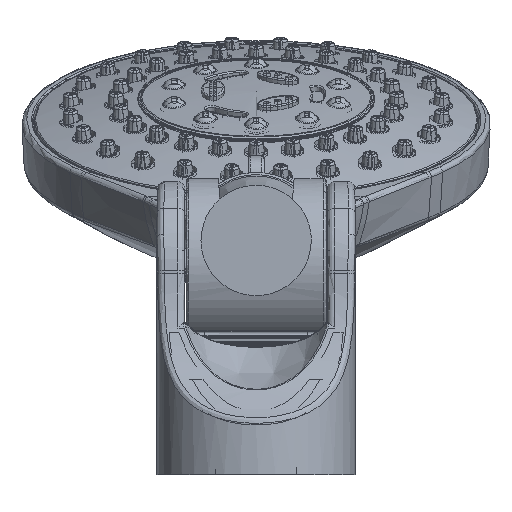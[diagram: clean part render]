
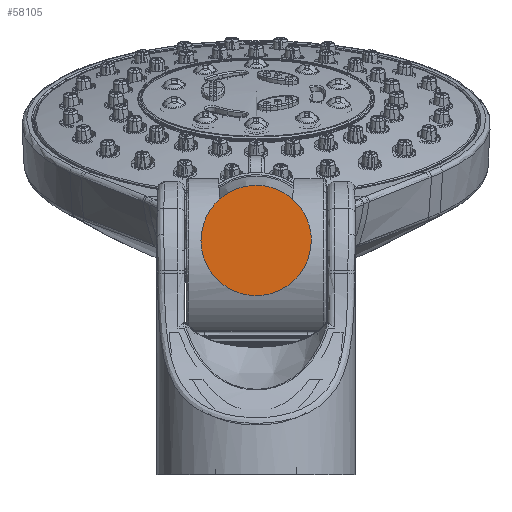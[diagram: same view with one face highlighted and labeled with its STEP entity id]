
A CAD part, front view. The second image highlights one B-rep face of the part: STEP entity #58105.
In plain terms, the highlighted planar face has unit normal (0, -1, 0).
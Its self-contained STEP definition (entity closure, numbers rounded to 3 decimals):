
#757 = CARTESIAN_POINT ( 'NONE',  ( 7.375, -349., -49.296 ) ) ;
#2614 = CARTESIAN_POINT ( 'NONE',  ( 7.375, -349., -30.104 ) ) ;
#6773 = CARTESIAN_POINT ( 'NONE',  ( 0., -349., -39.7 ) ) ;
#12254 = CARTESIAN_POINT ( 'NONE',  ( -3.141, -349., -51.388 ) ) ;
#14790 = EDGE_CURVE ( 'NONE', #79010, #161011, #128964, .T. ) ;
#19203 = DIRECTION ( 'NONE',  ( 0., 1., 0. ) ) ;
#26536 = CARTESIAN_POINT ( 'NONE',  ( -12., -349., -39.7 ) ) ;
#39971 = B_SPLINE_CURVE_WITH_KNOTS ( 'NONE', 3,
 ( #73171, #57934, #148574, #43635, #102786, #133308, #60735, #117105, #75064, #149497, #119923, #131431, #2614, #178112, #76003, #101863, #160074, #177148 ),
 .UNSPECIFIED., .F., .F.,
 ( 4, 2, 2, 2, 2, 2, 2, 2, 4 ),
 ( 0.5, 0.563, 0.625, 0.688, 0.75, 0.813, 0.875, 0.938, 1. ),
 .UNSPECIFIED. ) ;
#42735 = CARTESIAN_POINT ( 'NONE',  ( -1.571, -349., -51.7 ) ) ;
#43635 = CARTESIAN_POINT ( 'NONE',  ( -10.485, -349., -33.657 ) ) ;
#44610 = CARTESIAN_POINT ( 'NONE',  ( -11.688, -349., -42.841 ) ) ;
#57934 = CARTESIAN_POINT ( 'NONE',  ( -12., -349., -38.129 ) ) ;
#57969 = CARTESIAN_POINT ( 'NONE',  ( 12., -349., -39.7 ) ) ;
#58105 = ADVANCED_FACE ( 'NONE', ( #78314 ), #81143, .F. ) ;
#60735 = CARTESIAN_POINT ( 'NONE',  ( -6.043, -349., -29.215 ) ) ;
#64592 = ORIENTED_EDGE ( 'NONE', *, *, #14790, .F. ) ;
#71334 = CARTESIAN_POINT ( 'NONE',  ( -12., -349., -41.271 ) ) ;
#73171 = CARTESIAN_POINT ( 'NONE',  ( -12., -349., -39.7 ) ) ;
#75064 = CARTESIAN_POINT ( 'NONE',  ( -1.571, -349., -27.7 ) ) ;
#76003 = CARTESIAN_POINT ( 'NONE',  ( 10.485, -349., -33.657 ) ) ;
#77372 = DIRECTION ( 'NONE',  ( 0., 0., -1. ) ) ;
#78314 = FACE_OUTER_BOUND ( 'NONE', #79014, .T. ) ;
#79010 = VERTEX_POINT ( 'NONE', #165571 ) ;
#79014 = EDGE_LOOP ( 'NONE', ( #185626, #64592 ) ) ;
#81143 = PLANE ( 'NONE',  #120304 ) ;
#84754 = CARTESIAN_POINT ( 'NONE',  ( 6.043, -349., -50.185 ) ) ;
#99074 = CARTESIAN_POINT ( 'NONE',  ( 3.141, -349., -51.388 ) ) ;
#100020 = CARTESIAN_POINT ( 'NONE',  ( -10.485, -349., -45.743 ) ) ;
#101863 = CARTESIAN_POINT ( 'NONE',  ( 11.688, -349., -36.559 ) ) ;
#101906 = CARTESIAN_POINT ( 'NONE',  ( -9.596, -349., -47.075 ) ) ;
#102786 = CARTESIAN_POINT ( 'NONE',  ( -9.596, -349., -32.325 ) ) ;
#114340 = CARTESIAN_POINT ( 'NONE',  ( -7.375, -349., -49.296 ) ) ;
#117105 = CARTESIAN_POINT ( 'NONE',  ( -3.141, -349., -28.012 ) ) ;
#119923 = CARTESIAN_POINT ( 'NONE',  ( 3.141, -349., -28.012 ) ) ;
#120304 = AXIS2_PLACEMENT_3D ( 'NONE', #6773, #19203, #77372 ) ;
#128964 = B_SPLINE_CURVE_WITH_KNOTS ( 'NONE', 3,
 ( #57969, #173439, #172517, #132417, #129612, #757, #84754, #99074, #144876, #42735, #12254, #171549, #114340, #101906, #100020, #44610, #71334, #143930 ),
 .UNSPECIFIED., .F., .F.,
 ( 4, 2, 2, 2, 2, 2, 2, 2, 4 ),
 ( 0., 0.063, 0.125, 0.188, 0.25, 0.313, 0.375, 0.438, 0.5 ),
 .UNSPECIFIED. ) ;
#129612 = CARTESIAN_POINT ( 'NONE',  ( 9.596, -349., -47.075 ) ) ;
#131431 = CARTESIAN_POINT ( 'NONE',  ( 6.043, -349., -29.215 ) ) ;
#132417 = CARTESIAN_POINT ( 'NONE',  ( 10.485, -349., -45.743 ) ) ;
#133308 = CARTESIAN_POINT ( 'NONE',  ( -7.375, -349., -30.104 ) ) ;
#143930 = CARTESIAN_POINT ( 'NONE',  ( -12., -349., -39.7 ) ) ;
#144876 = CARTESIAN_POINT ( 'NONE',  ( 1.571, -349., -51.7 ) ) ;
#148574 = CARTESIAN_POINT ( 'NONE',  ( -11.688, -349., -36.559 ) ) ;
#149497 = CARTESIAN_POINT ( 'NONE',  ( 1.571, -349., -27.7 ) ) ;
#160074 = CARTESIAN_POINT ( 'NONE',  ( 12., -349., -38.129 ) ) ;
#161011 = VERTEX_POINT ( 'NONE', #26536 ) ;
#164896 = EDGE_CURVE ( 'NONE', #161011, #79010, #39971, .T. ) ;
#165571 = CARTESIAN_POINT ( 'NONE',  ( 12., -349., -39.7 ) ) ;
#171549 = CARTESIAN_POINT ( 'NONE',  ( -6.043, -349., -50.185 ) ) ;
#172517 = CARTESIAN_POINT ( 'NONE',  ( 11.688, -349., -42.841 ) ) ;
#173439 = CARTESIAN_POINT ( 'NONE',  ( 12., -349., -41.271 ) ) ;
#177148 = CARTESIAN_POINT ( 'NONE',  ( 12., -349., -39.7 ) ) ;
#178112 = CARTESIAN_POINT ( 'NONE',  ( 9.596, -349., -32.325 ) ) ;
#185626 = ORIENTED_EDGE ( 'NONE', *, *, #164896, .F. ) ;
